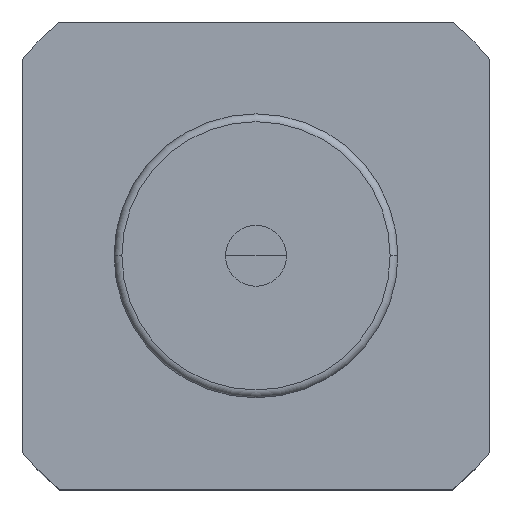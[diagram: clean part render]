
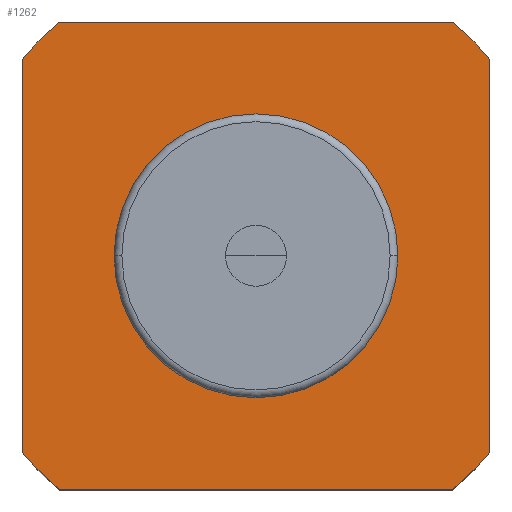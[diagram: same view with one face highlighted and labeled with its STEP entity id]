
A CAD part, top view. The second image highlights one B-rep face of the part: STEP entity #1262.
In plain terms, the highlighted planar face has unit normal (0, 0, 1) as drawn and (0, 1, 0) by its records, which use the part's own axes.
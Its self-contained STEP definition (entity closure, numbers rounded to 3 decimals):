
#945=CARTESIAN_POINT('',(0.,1.45,0.));
#946=DIRECTION('',(0.,-1.,0.));
#947=DIRECTION('',(0.,0.,-1.));
#948=AXIS2_PLACEMENT_3D('',#945,#946,#947);
#950=CARTESIAN_POINT('',(0.,1.45,0.));
#951=DIRECTION('',(0.,-1.,0.));
#952=DIRECTION('',(0.,0.,1.));
#953=AXIS2_PLACEMENT_3D('',#950,#951,#952);
#955=DIRECTION('',(0.,0.,-1.));
#956=VECTOR('',#955,2.523);
#957=CARTESIAN_POINT('',(-1.5,1.45,1.262));
#958=LINE('',#957,#956);
#959=CARTESIAN_POINT('',(0.,1.45,0.));
#960=DIRECTION('',(0.,1.,0.));
#961=DIRECTION('',(-0.644,0.,-0.765));
#962=AXIS2_PLACEMENT_3D('',#959,#960,#961);
#964=DIRECTION('',(1.,0.,0.));
#965=VECTOR('',#964,2.523);
#966=CARTESIAN_POINT('',(-1.262,1.45,-1.5));
#967=LINE('',#966,#965);
#968=CARTESIAN_POINT('',(0.,1.45,0.));
#969=DIRECTION('',(0.,1.,0.));
#970=DIRECTION('',(0.765,0.,-0.644));
#971=AXIS2_PLACEMENT_3D('',#968,#969,#970);
#973=DIRECTION('',(0.,0.,1.));
#974=VECTOR('',#973,2.523);
#975=CARTESIAN_POINT('',(1.5,1.45,-1.262));
#976=LINE('',#975,#974);
#977=CARTESIAN_POINT('',(0.,1.45,0.));
#978=DIRECTION('',(0.,1.,0.));
#979=DIRECTION('',(0.644,0.,0.765));
#980=AXIS2_PLACEMENT_3D('',#977,#978,#979);
#982=DIRECTION('',(-1.,0.,0.));
#983=VECTOR('',#982,2.523);
#984=CARTESIAN_POINT('',(1.262,1.45,1.5));
#985=LINE('',#984,#983);
#986=CARTESIAN_POINT('',(0.,1.45,0.));
#987=DIRECTION('',(0.,1.,0.));
#988=DIRECTION('',(-0.765,0.,0.644));
#989=AXIS2_PLACEMENT_3D('',#986,#987,#988);
#1046=CARTESIAN_POINT('',(0.,1.45,-0.911));
#1047=CARTESIAN_POINT('',(0.,1.45,0.911));
#1048=VERTEX_POINT('',#1046);
#1049=VERTEX_POINT('',#1047);
#1066=CARTESIAN_POINT('',(-1.5,1.45,1.262));
#1067=CARTESIAN_POINT('',(-1.5,1.45,-1.262));
#1068=VERTEX_POINT('',#1066);
#1069=VERTEX_POINT('',#1067);
#1070=CARTESIAN_POINT('',(-1.262,1.45,-1.5));
#1071=CARTESIAN_POINT('',(1.262,1.45,-1.5));
#1072=VERTEX_POINT('',#1070);
#1073=VERTEX_POINT('',#1071);
#1074=CARTESIAN_POINT('',(1.5,1.45,-1.262));
#1075=CARTESIAN_POINT('',(1.5,1.45,1.262));
#1076=VERTEX_POINT('',#1074);
#1077=VERTEX_POINT('',#1075);
#1078=CARTESIAN_POINT('',(1.262,1.45,1.5));
#1079=CARTESIAN_POINT('',(-1.262,1.45,1.5));
#1080=VERTEX_POINT('',#1078);
#1081=VERTEX_POINT('',#1079);
#1235=CARTESIAN_POINT('',(0.,1.45,0.));
#1236=DIRECTION('',(0.,1.,0.));
#1237=DIRECTION('',(0.,0.,-1.));
#1238=AXIS2_PLACEMENT_3D('',#1235,#1236,#1237);
#1239=PLANE('',#1238);
#1241=ORIENTED_EDGE('',*,*,#1240,.T.);
#1243=ORIENTED_EDGE('',*,*,#1242,.F.);
#1245=ORIENTED_EDGE('',*,*,#1244,.T.);
#1247=ORIENTED_EDGE('',*,*,#1246,.F.);
#1249=ORIENTED_EDGE('',*,*,#1248,.T.);
#1251=ORIENTED_EDGE('',*,*,#1250,.F.);
#1253=ORIENTED_EDGE('',*,*,#1252,.T.);
#1255=ORIENTED_EDGE('',*,*,#1254,.F.);
#1256=EDGE_LOOP('',(#1241,#1243,#1245,#1247,#1249,#1251,#1253,#1255));
#1257=FACE_OUTER_BOUND('',#1256,.F.);
#1258=ORIENTED_EDGE('',*,*,#1215,.F.);
#1259=ORIENTED_EDGE('',*,*,#1229,.F.);
#1260=EDGE_LOOP('',(#1258,#1259));
#1261=FACE_BOUND('',#1260,.F.);
#1262=ADVANCED_FACE('',(#1257,#1261),#1239,.T.);
#949=CIRCLE('',#948,0.911);
#954=CIRCLE('',#953,0.911);
#963=CIRCLE('',#962,1.96);
#972=CIRCLE('',#971,1.96);
#981=CIRCLE('',#980,1.96);
#990=CIRCLE('',#989,1.96);
#1215=EDGE_CURVE('',#1048,#1049,#949,.T.);
#1229=EDGE_CURVE('',#1049,#1048,#954,.T.);
#1240=EDGE_CURVE('',#1068,#1069,#958,.T.);
#1242=EDGE_CURVE('',#1072,#1069,#963,.T.);
#1244=EDGE_CURVE('',#1072,#1073,#967,.T.);
#1246=EDGE_CURVE('',#1076,#1073,#972,.T.);
#1248=EDGE_CURVE('',#1076,#1077,#976,.T.);
#1250=EDGE_CURVE('',#1080,#1077,#981,.T.);
#1252=EDGE_CURVE('',#1080,#1081,#985,.T.);
#1254=EDGE_CURVE('',#1068,#1081,#990,.T.);
